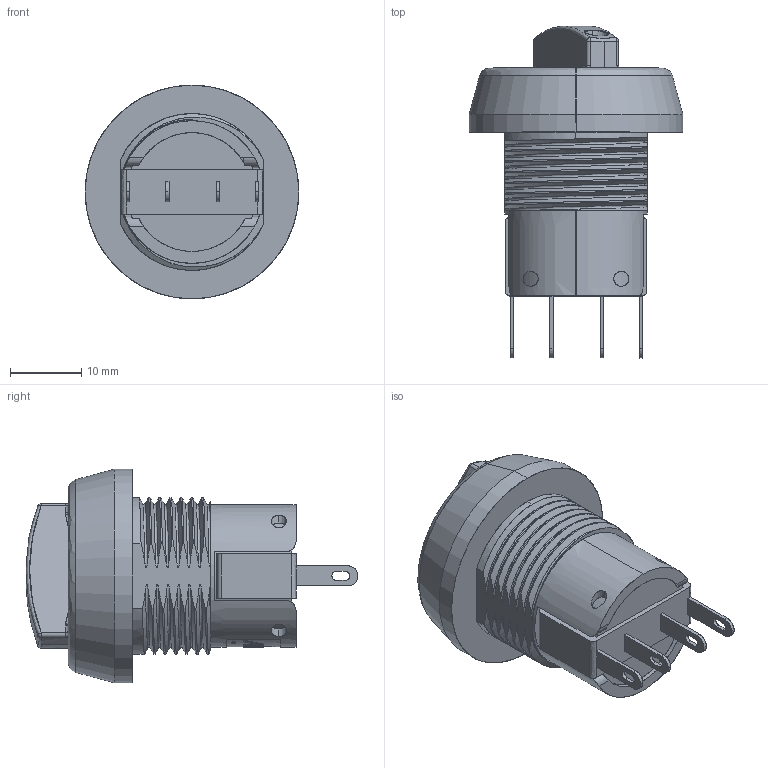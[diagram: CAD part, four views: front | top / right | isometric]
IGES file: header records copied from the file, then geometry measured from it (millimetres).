
Start section: SolidWorks IGES file using analytic representation for surfaces
Global section: file name: X:\Archive - Switch\Switches Series (Top Levels)\series 76-94\Step & Iges Files\76-949034.IGS; native system: SolidWorks 2015; preprocessor: SolidWorks 2015; author: Alan_B; date: 150601.100421; units: millimetre
Bounding box: 30 x 46.6 x 30 mm (x, y, z)
Surface area: 4847.4 mm2 (no closed solid volume)
Topology: 0 solids, 0 shells, 270 faces, 3727 edges, 3727 vertices
Faces by surface type: bspline 164, revolution 106
